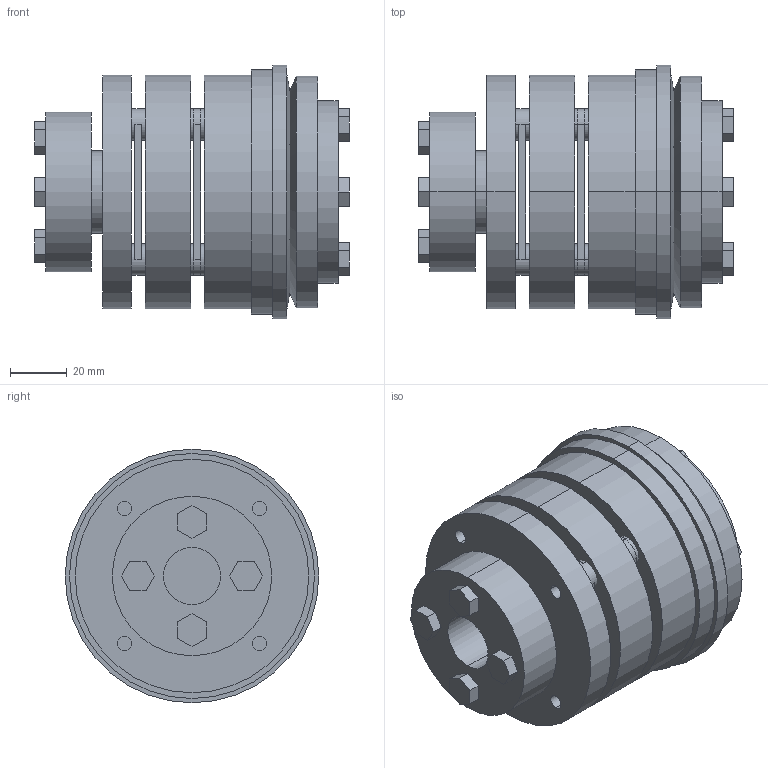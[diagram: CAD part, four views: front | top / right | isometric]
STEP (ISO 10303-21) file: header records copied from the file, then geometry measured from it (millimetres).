
FILE_DESCRIPTION (( 'STEP AP203' ), '1' );
FILE_NAME ('SWTL-82.STEP', '2009-09-30T17:59:20', ( 'USER' ), ( 'HOME' ), 'SwSTEP 2.0', 'SolidWorks 2007', '' );
FILE_SCHEMA (( 'CONFIG_CONTROL_DESIGN' ));
Length unit declared in the file: millimetre
Products named in the file (1): SWTL-82
Bounding box: 110.6 x 89 x 89 mm (x, y, z)
Volume: 425519.4 mm3; surface area: 81832.7 mm2
Topology: 3 solids, 6 shells, 147 faces, 360 edges, 232 vertices
Faces by surface type: plane 87, cylinder 48, cone 12
Entity records: 4381 total; most frequent: DIRECTION 764, CARTESIAN_POINT 732, ORIENTED_EDGE 704, EDGE_CURVE 352, AXIS2_PLACEMENT_3D 264, VECTOR 236, LINE 236, VERTEX_POINT 232
